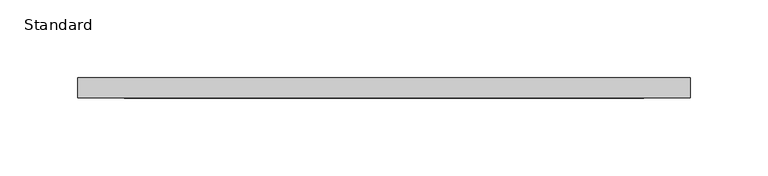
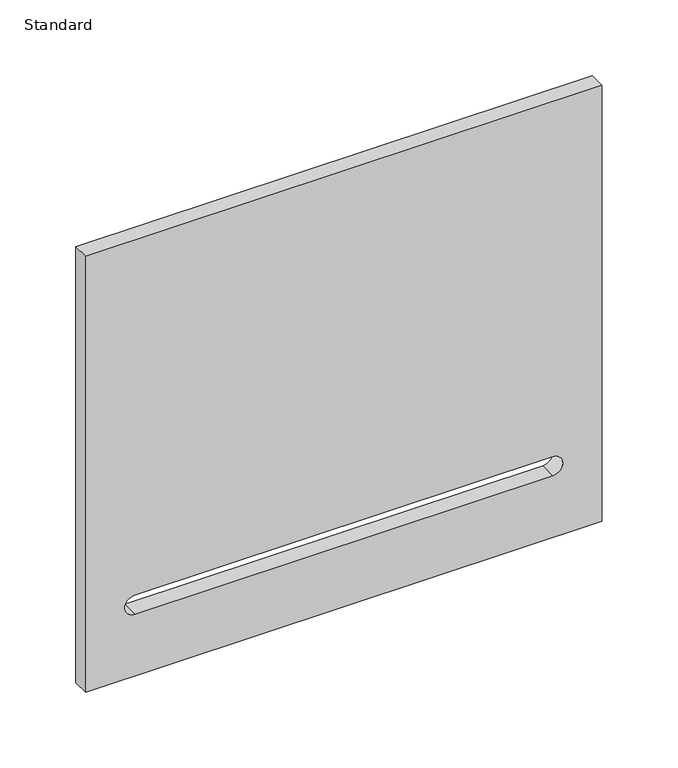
"""IFC4 building model written with IfcOpenShell, lengths in millimetres: furniture geometry, X_Locker-Duracube-Door : Standard."""

from ifc_helpers import new_model, si_unit, point, frame, frame_2d, origin, place, context, project, spatial, polyline, circle_curve, trimmed, segment, composite_curve, outline, extrude, source, transform, mapped, element, save


def standard_a614ba5f(model_context):
    return source(origin(), model_context, "Body", "SweptSolid", [
        extrude(outline(polyline([(354.5, 241.7003264), (354.5, -152.2996736), (3.0, -152.2996736), (3.0, 241.7003264), (354.5, 241.7003264)]), holes=[composite_curve([segment(trimmed(circle_curve(frame_2d((60.5, 204.2003264)), 7.5), [point((68.0, 204.2003264))], [point((53.0, 204.2003264))], True, "CARTESIAN"), True, "CONTINUOUS"), segment(polyline([(53.0, 204.2003264), (53.0, -114.7996736)]), True, "CONTINUOUS"), segment(trimmed(circle_curve(frame_2d((60.5, -114.7996736)), 7.5), [point((53.0, -114.7996736))], [point((68.0, -114.7996736))], True, "CARTESIAN"), True, "CONTINUOUS"), segment(polyline([(68.0, -114.7996736), (68.0, 204.2003264)]), True, "CONTINUOUS")], self_intersect=False)]), frame((0.0, -13.0, 0.0), z_axis=(0.0, 1.0, 0.0), x_axis=(0.0, 0.0, 1.0)), (0.0, 0.0, 1.0), 13.0),
    ])


if __name__ == "__main__":
    model = new_model("IFC4")
    model_context = context("Model", 3, world=origin())
    ifc_project = project(units=[si_unit("LENGTHUNIT", "METRE", prefix="MILLI")], contexts=[model_context])
    site = spatial("IfcSite", under=ifc_project)
    building = spatial("IfcBuilding", under=site)
    placement = place(None, origin())
    standard_shape = standard_a614ba5f(model_context)
    element("IfcFurniture", 1, ObjectType="X_Locker-Duracube-Door : Standard", at=placement, inside=building, context=model_context, shape_type="MappedRepresentation", body=[
        mapped(standard_shape, transform((0.0, 0.0, 0.0), x_axis=(1.0, 0.0, 0.0), y_axis=(0.0, 1.0, 0.0), z_axis=(0.0, 0.0, 1.0))),
    ])
    save(model, "model.ifc")
